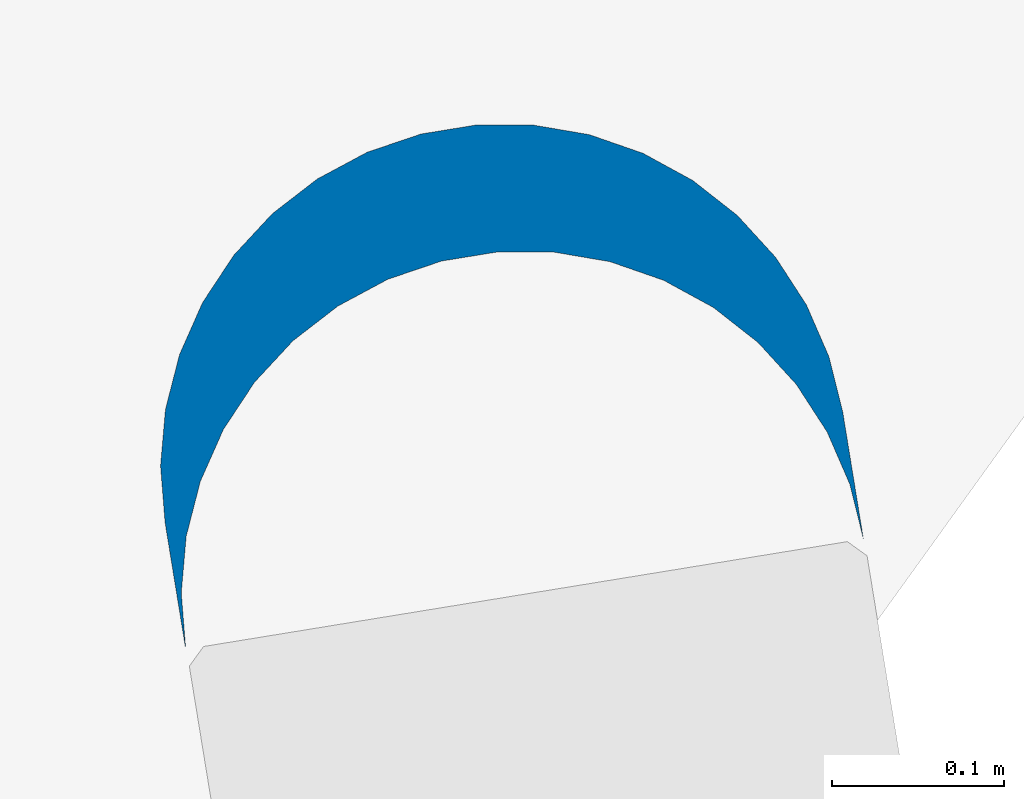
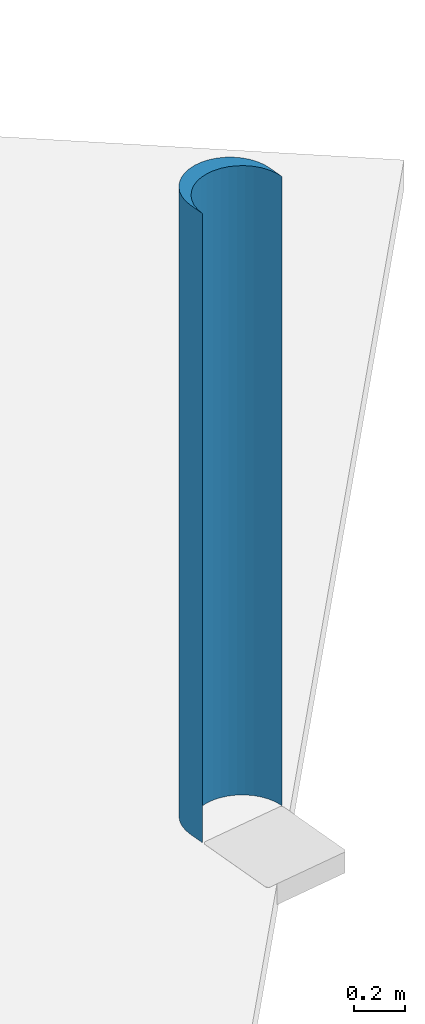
# One storey, part 5 of 10: 1 column.
"""IFC2X3 building model written with IfcOpenShell, lengths in millimetres."""

from ifc_helpers import new_model, entity, si_unit, converted_unit, derived_unit, direction, frame, origin, origin_with_axes, place, context, subcontext, project, spatial, faceted_brep, material, type_object, element, save


model = new_model("IFC2X3")

# Units and contexts
model_context = context("Model", 3, precision=0.01, world=origin(), true_north=direction((6.12323399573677e-17, 1.0)))
plan_context = context("Plan", 3, precision=1e-05, world=origin_with_axes())
body_context = subcontext(model_context, "Body", "Model", "MODEL_VIEW")
ifc_project = project(units=[converted_unit("PLANEANGLEUNIT", "DEGREE", entity("IfcPositiveLengthMeasure", 0.0174532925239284), si_unit("PLANEANGLEUNIT", "RADIAN"), dimensions=[0, 0, 0, 0, 0, 0, 0]), si_unit("AREAUNIT", "SQUARE_METRE"), si_unit("LENGTHUNIT", "METRE", prefix="MILLI"), si_unit("MASSUNIT", "GRAM", prefix="KILO"), si_unit("POWERUNIT", "WATT"), si_unit("PRESSUREUNIT", "PASCAL", prefix="KILO"), si_unit("FORCEUNIT", "NEWTON", prefix="KILO"), si_unit("ELECTRICVOLTAGEUNIT", "VOLT"), si_unit("ELECTRICCURRENTUNIT", "AMPERE"), si_unit("THERMODYNAMICTEMPERATUREUNIT", "DEGREE_CELSIUS"), si_unit("TIMEUNIT", "SECOND"), si_unit("VOLUMEUNIT", "CUBIC_METRE"), derived_unit("LINEARVELOCITYUNIT", [(si_unit("LENGTHUNIT", "METRE"), 1), (si_unit("TIMEUNIT", "SECOND"), -1)]), derived_unit("VOLUMETRICFLOWRATEUNIT", [(si_unit("VOLUMEUNIT", "CUBIC_METRE"), 1), (si_unit("TIMEUNIT", "SECOND"), -1)]), derived_unit("THERMALTRANSMITTANCEUNIT", [(si_unit("POWERUNIT", "WATT"), 1), (si_unit("THERMODYNAMICTEMPERATUREUNIT", "KELVIN"), -1), (si_unit("AREAUNIT", "SQUARE_METRE"), -1)]), derived_unit("SOUNDPRESSUREUNIT", [(si_unit("PRESSUREUNIT", "PASCAL"), 1)])], contexts=[model_context, plan_context])

# Site, building, storey
site_placement = place(None, frame((-305029.896016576, -232111.759730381, 0.0), z_axis=(0.0, 0.0, 1.0), x_axis=(-0.160806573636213, 0.986985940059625, 0.0)))
site = spatial("IfcSite", under=ifc_project, at=site_placement, Name="Default", CompositionType="ELEMENT")
building_placement = place(site_placement, frame((0.0, 0.0, 0.0), z_axis=(0.0, 0.0, 1.0), x_axis=(1.0, -2.77555756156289e-17, 0.0)))
building = spatial("IfcBuilding", under=site, at=building_placement, Name="br001-a-200-1-0001", CompositionType="ELEMENT")
storey_placement = place(building_placement, frame((0.0, 0.0, 55500.0), z_axis=(0.0, 0.0, 1.0), x_axis=(1.0, -2.77555756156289e-17, 0.0)))
storey = spatial("IfcBuildingStorey", under=building, at=storey_placement, Name="H02-Nivå F-3,5 m", CompositionType="ELEMENT", Elevation=55500.0)

# Column
ifc_material = material(Name="<Unnamed>")
column_type = type_object("IfcColumnType", Name="Columns T5:Columns T2", PredefinedType="COLUMN", material=ifc_material)
column_placement = place(storey_placement, frame((0.0, 4999.9999999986, -55500.0), z_axis=(0.0, 0.0, 1.0), x_axis=(1.0, -2.77555756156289e-17, 0.0)))
element("IfcColumn", 1, at=column_placement, inside=storey, type_object=column_type, Name="Columns T5:Columns T2", ObjectType="Columns T5:Columns T2", context=body_context, shape_type="Brep", body=[
    faceted_brep([(1184878.59858442, -697565.878367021, 55500.0), (1184878.59858442, -697565.878367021, 58500.0), (1184911.51750247, -697568.60610634, 58500.0), (1184911.51750247, -697568.60610634, 55500.0), (1185018.53847826, -697955.041815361, 55500.0), (1185018.53847826, -697955.041815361, 58500.0), (1185048.78806302, -697941.773117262, 58500.0), (1185048.78806302, -697941.773117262, 55500.0), (1185076.44112696, -697923.7064689, 58500.0), (1185076.44112696, -697923.7064689, 55500.0), (1185100.74336655, -697901.334681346, 58500.0), (1185100.74336655, -697901.334681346, 55500.0), (1185121.03188007, -697875.267998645, 58500.0), (1185121.03188007, -697875.267998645, 55500.0), (1185136.75324975, -697846.217451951, 58500.0), (1185136.75324975, -697846.217451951, 55500.0), (1185147.47863761, -697814.975464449, 58500.0), (1185147.47863761, -697814.975464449, 55500.0), (1185152.91548302, -697782.394236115, 58500.0), (1185152.91548302, -697782.394236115, 55500.0), (1185152.91548302, -697749.362497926, 58500.0), (1185152.91548302, -697749.362497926, 55500.0), (1185147.47863761, -697716.781269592, 58500.0), (1185147.47863761, -697716.781269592, 55500.0), (1185136.75324975, -697685.53928209, 58500.0), (1185136.75324975, -697685.53928209, 55500.0), (1185121.03188007, -697656.488735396, 58500.0), (1185121.03188007, -697656.488735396, 55500.0), (1185100.74336655, -697630.422052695, 58500.0), (1185100.74336655, -697630.422052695, 55500.0), (1185076.44112696, -697608.050265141, 58500.0), (1185076.44112696, -697608.050265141, 55500.0), (1185048.78806302, -697589.983616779, 58500.0), (1185048.78806302, -697589.983616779, 55500.0), (1185018.53847826, -697576.71491868, 58500.0), (1185018.53847826, -697576.71491868, 55500.0), (1184986.51750247, -697568.60610634, 58500.0), (1184986.51750247, -697568.60610634, 55500.0), (1184953.59858442, -697565.878367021, 58500.0), (1184953.59858442, -697565.878367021, 55500.0), (1184943.53847826, -697576.71491868, 58500.0), (1184943.53847826, -697576.71491868, 55500.0), (1184973.78806302, -697589.983616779, 58500.0), (1184973.78806302, -697589.983616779, 55500.0), (1185001.44112696, -697608.050265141, 58500.0), (1185001.44112696, -697608.050265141, 55500.0), (1185025.74336655, -697630.422052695, 58500.0), (1185025.74336655, -697630.422052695, 55500.0), (1185046.03188007, -697656.488735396, 58500.0), (1185046.03188007, -697656.488735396, 55500.0), (1185061.75324975, -697685.53928209, 58500.0), (1185061.75324975, -697685.53928209, 55500.0), (1185072.47863761, -697716.781269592, 58500.0), (1185072.47863761, -697716.781269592, 55500.0), (1185077.91548302, -697749.362497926, 58500.0), (1185077.91548302, -697749.362497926, 55500.0), (1185077.91548302, -697782.394236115, 58500.0), (1185077.91548302, -697782.394236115, 55500.0), (1185072.47863761, -697814.975464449, 58500.0), (1185072.47863761, -697814.975464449, 55500.0), (1185061.75324975, -697846.217451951, 58500.0), (1185061.75324975, -697846.217451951, 55500.0), (1185046.03188007, -697875.267998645, 58500.0), (1185046.03188007, -697875.267998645, 55500.0), (1185025.74336655, -697901.334681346, 58500.0), (1185025.74336655, -697901.334681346, 55500.0), (1185001.44112696, -697923.7064689, 58500.0), (1185001.44112696, -697923.7064689, 55500.0), (1184973.78806302, -697941.773117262, 58500.0), (1184973.78806302, -697941.773117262, 55500.0), (1184943.53847826, -697955.041815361, 58500.0), (1184943.53847826, -697955.041815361, 55500.0), (1184911.51750247, -697963.150627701, 58500.0), (1184911.51750247, -697963.150627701, 55500.0), (1184878.59858442, -697965.878367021, 58500.0), (1184878.59858442, -697965.878367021, 55500.0), (1184953.59858442, -697965.878367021, 58500.0), (1184953.59858442, -697965.878367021, 55500.0), (1184986.51750247, -697963.150627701, 58500.0), (1184986.51750247, -697963.150627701, 55500.0)], [[[0, 1, 2, 3]], [[4, 5, 6, 7]], [[7, 6, 8, 9]], [[9, 8, 10, 11]], [[11, 10, 12, 13]], [[13, 12, 14, 15]], [[15, 14, 16, 17]], [[17, 16, 18, 19]], [[19, 18, 20, 21]], [[21, 20, 22, 23]], [[23, 22, 24, 25]], [[25, 24, 26, 27]], [[27, 26, 28, 29]], [[29, 28, 30, 31]], [[31, 30, 32, 33]], [[33, 32, 34, 35]], [[35, 34, 36, 37]], [[37, 36, 38, 39]], [[39, 38, 1, 0]], [[3, 2, 40, 41]], [[41, 40, 42, 43]], [[43, 42, 44, 45]], [[45, 44, 46, 47]], [[47, 46, 48, 49]], [[49, 48, 50, 51]], [[51, 50, 52, 53]], [[53, 52, 54, 55]], [[55, 54, 56, 57]], [[57, 56, 58, 59]], [[59, 58, 60, 61]], [[61, 60, 62, 63]], [[63, 62, 64, 65]], [[65, 64, 66, 67]], [[67, 66, 68, 69]], [[69, 68, 70, 71]], [[71, 70, 72, 73]], [[73, 72, 74, 75]], [[75, 74, 76, 77]], [[77, 76, 78, 79]], [[79, 78, 5, 4]], [[0, 3, 41, 43, 45, 47, 49, 51, 53, 55, 57, 59, 61, 63, 65, 67, 69, 71, 73, 75, 77, 79, 4, 7, 9, 11, 13, 15, 17, 19, 21, 23, 25, 27, 29, 31, 33, 35, 37, 39]], [[2, 1, 38, 36, 34, 32, 30, 28, 26, 24, 22, 20, 18, 16, 14, 12, 10, 8, 6, 5, 78, 76, 74, 72, 70, 68, 66, 64, 62, 60, 58, 56, 54, 52, 50, 48, 46, 44, 42, 40]]], orient=[[False], [False], [False], [False], [False], [False], [False], [False], [False], [False], [False], [False], [False], [False], [False], [False], [False], [False], [False], [False], [False], [False], [False], [False], [False], [False], [False], [False], [False], [False], [False], [False], [False], [False], [False], [False], [False], [False], [False], [False], [False], [False]]),
])

save(model, "model.ifc")
